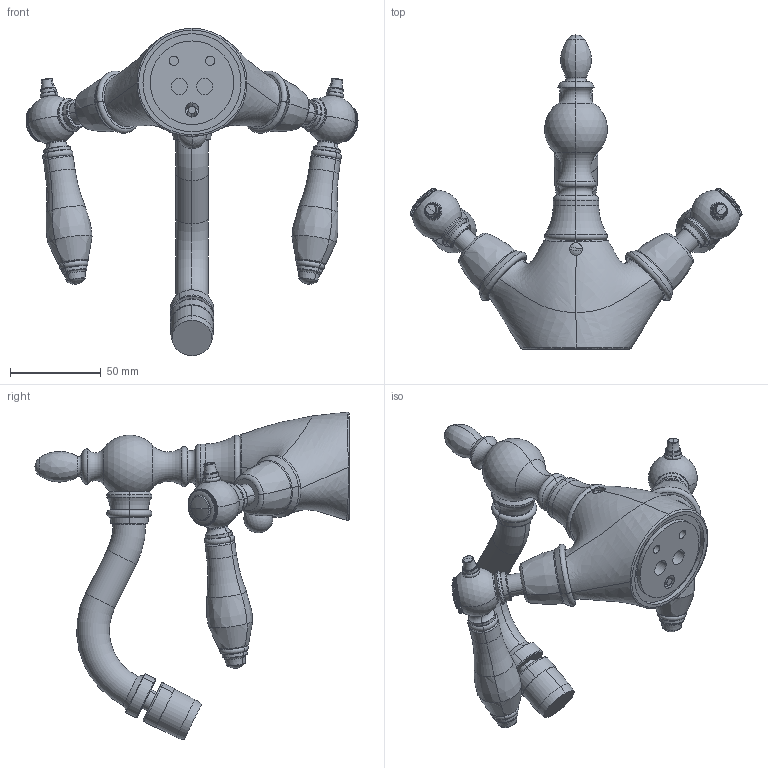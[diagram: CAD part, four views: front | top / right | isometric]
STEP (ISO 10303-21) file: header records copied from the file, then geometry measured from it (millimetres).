
FILE_DESCRIPTION((''),'2;1');
FILE_NAME('F5412_FILE_3D','2013-07-30T',('ivanv'),(''),'PRO/ENGINEER BY PARAMETRIC TECHNOLOGY CORPORATION, 2012130','PRO/ENGINEER BY PARAMETRIC TECHNOLOGY CORPORATION, 2012130','');
FILE_SCHEMA(('CONFIG_CONTROL_DESIGN'));
Products named in the file (1): F5412_FILE_3D
Bounding box: 182.79 x 173 x 180.23 mm (x, y, z)
Volume: 350674.1 mm3; surface area: 72801.5 mm2
Topology: 4 solids, 14 shells, 1972 faces, 5065 edges, 3147 vertices
Faces by surface type: plane 1144, cylinder 468, torus 172, cone 122, bspline 36, sphere 30
Entity records: 81044 total; most frequent: CARTESIAN_POINT 33935, ORIENTED_EDGE 10078, DIRECTION 9768, EDGE_CURVE 5039, AXIS2_PLACEMENT_3D 3810, VERTEX_POINT 3143, VECTOR 2148, LINE 2148
